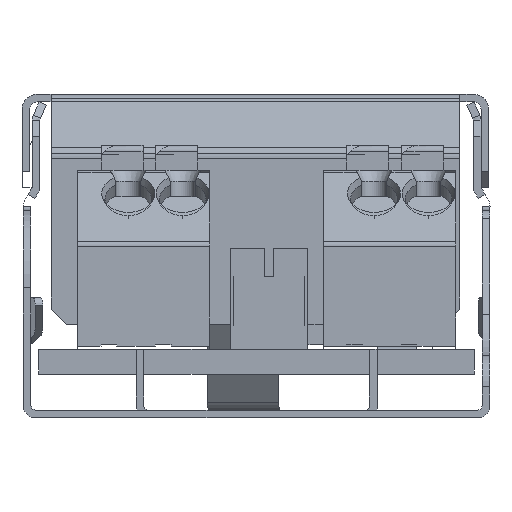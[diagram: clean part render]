
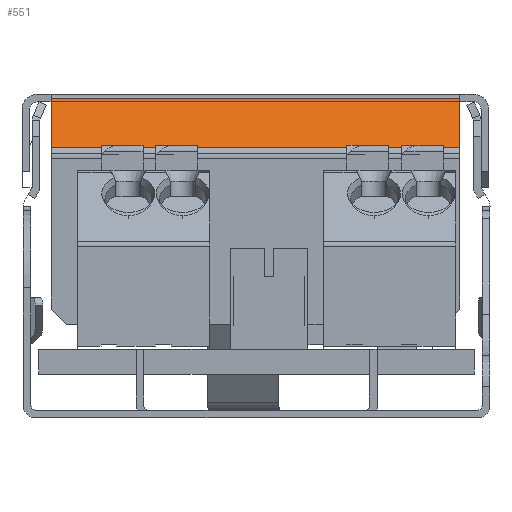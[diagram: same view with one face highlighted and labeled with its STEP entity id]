
A CAD part, front view. The second image highlights one B-rep face of the part: STEP entity #551.
In plain terms, the highlighted planar face has unit normal (0, -0.707, 0.707).
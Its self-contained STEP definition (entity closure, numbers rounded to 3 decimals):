
#259 = VERTEX_POINT ( 'NONE', #2509 ) ;
#551 = ADVANCED_FACE ( 'NONE', ( #1844 ), #12353, .T. ) ;
#842 = VERTEX_POINT ( 'NONE', #1781 ) ;
#1055 = ORIENTED_EDGE ( 'NONE', *, *, #7358, .T. ) ;
#1281 = EDGE_CURVE ( 'NONE', #5048, #2648, #3608, .T. ) ;
#1781 = CARTESIAN_POINT ( 'NONE',  ( 118.61, 19.056, 236.492 ) ) ;
#1844 = FACE_OUTER_BOUND ( 'NONE', #5512, .T. ) ;
#2509 = CARTESIAN_POINT ( 'NONE',  ( 118.61, 15.899, 233.335 ) ) ;
#2648 = VERTEX_POINT ( 'NONE', #3363 ) ;
#2853 = DIRECTION ( 'NONE',  ( 0., 0.707, 0.707 ) ) ;
#3363 = CARTESIAN_POINT ( 'NONE',  ( 92.34, 19.056, 236.492 ) ) ;
#3608 = LINE ( 'NONE', #12115, #13780 ) ;
#3628 = CARTESIAN_POINT ( 'NONE',  ( 105.475, 15.899, 233.335 ) ) ;
#3723 = VECTOR ( 'NONE', #15573, 1000. ) ;
#3997 = LINE ( 'NONE', #9076, #7113 ) ;
#4145 = LINE ( 'NONE', #3628, #3723 ) ;
#5048 = VERTEX_POINT ( 'NONE', #17130 ) ;
#5512 = EDGE_LOOP ( 'NONE', ( #1055, #12415, #16224, #10862 ) ) ;
#5728 = CARTESIAN_POINT ( 'NONE',  ( 105.475, 19.056, 236.492 ) ) ;
#6741 = AXIS2_PLACEMENT_3D ( 'NONE', #9558, #10830, #14838 ) ;
#7113 = VECTOR ( 'NONE', #17061, 1000. ) ;
#7358 = EDGE_CURVE ( 'NONE', #842, #2648, #13853, .T. ) ;
#9076 = CARTESIAN_POINT ( 'NONE',  ( 118.61, 17.478, 234.914 ) ) ;
#9558 = CARTESIAN_POINT ( 'NONE',  ( 119.136, 19.271, 236.707 ) ) ;
#10311 = VECTOR ( 'NONE', #15004, 1000. ) ;
#10405 = EDGE_CURVE ( 'NONE', #842, #259, #3997, .T. ) ;
#10830 = DIRECTION ( 'NONE',  ( 0., -0.707, 0.707 ) ) ;
#10862 = ORIENTED_EDGE ( 'NONE', *, *, #10405, .F. ) ;
#11908 = EDGE_CURVE ( 'NONE', #259, #5048, #4145, .T. ) ;
#12115 = CARTESIAN_POINT ( 'NONE',  ( 92.34, 17.478, 234.914 ) ) ;
#12353 = PLANE ( 'NONE',  #6741 ) ;
#12415 = ORIENTED_EDGE ( 'NONE', *, *, #1281, .F. ) ;
#13780 = VECTOR ( 'NONE', #2853, 1000. ) ;
#13853 = LINE ( 'NONE', #5728, #10311 ) ;
#14838 = DIRECTION ( 'NONE',  ( -1., 0., 0. ) ) ;
#15004 = DIRECTION ( 'NONE',  ( -1., 0., 0. ) ) ;
#15573 = DIRECTION ( 'NONE',  ( -1., 0., 0. ) ) ;
#16224 = ORIENTED_EDGE ( 'NONE', *, *, #11908, .F. ) ;
#17061 = DIRECTION ( 'NONE',  ( 0., -0.707, -0.707 ) ) ;
#17130 = CARTESIAN_POINT ( 'NONE',  ( 92.34, 15.899, 233.335 ) ) ;
